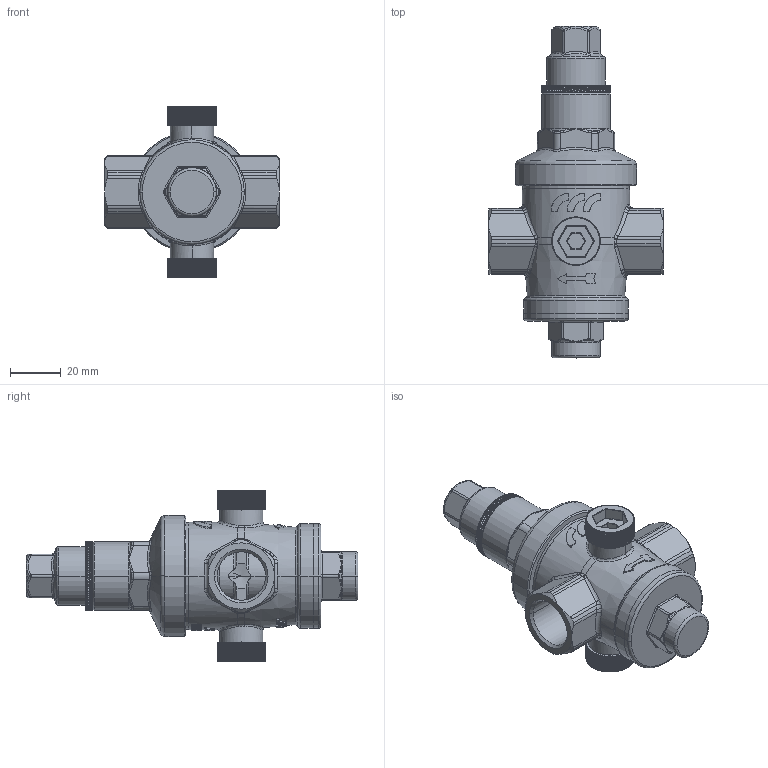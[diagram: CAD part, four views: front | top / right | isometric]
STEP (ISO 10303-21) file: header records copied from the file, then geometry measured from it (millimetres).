
FILE_DESCRIPTION((''),'2;1');
FILE_NAME('504015_ASM','2021-09-03T',('ufficiotecnico'),(''),'CREO PARAMETRIC BY PTC INC, 2016380','CREO PARAMETRIC BY PTC INC, 2016380','');
FILE_SCHEMA(('CONFIG_CONTROL_DESIGN'));
Products named in the file (10): 504015_AL; 502015_S; 504015_ALS_ASM; 490015_L; 504015_CL; 501015_G; 501015_BL; 501015_IL; 501015_D; 504015_ASM
Assembly tree (10 placements, depth 3):
  504015_ASM
    504015_ALS_ASM
      504015_AL
      502015_S
    490015_L  x2
    504015_CL
    501015_G
    501015_BL
    501015_IL
    501015_D
Bounding box: 68.5 x 130.2 x 67 mm (x, y, z)
Volume: 70432.1 mm3; surface area: 50608.7 mm2
Topology: 11 solids, 11 shells, 3422 faces, 7898 edges, 4542 vertices
Faces by surface type: plane 2027, cylinder 696, torus 240, bspline 178, cone 146, extrusion 99, sphere 36
Entity records: 130168 total; most frequent: CARTESIAN_POINT 67790, ORIENTED_EDGE 13928, DIRECTION 11014, EDGE_CURVE 6964, VERTEX_POINT 3998, AXIS2_PLACEMENT_3D 3916, VECTOR 3182, EDGE_LOOP 3112
